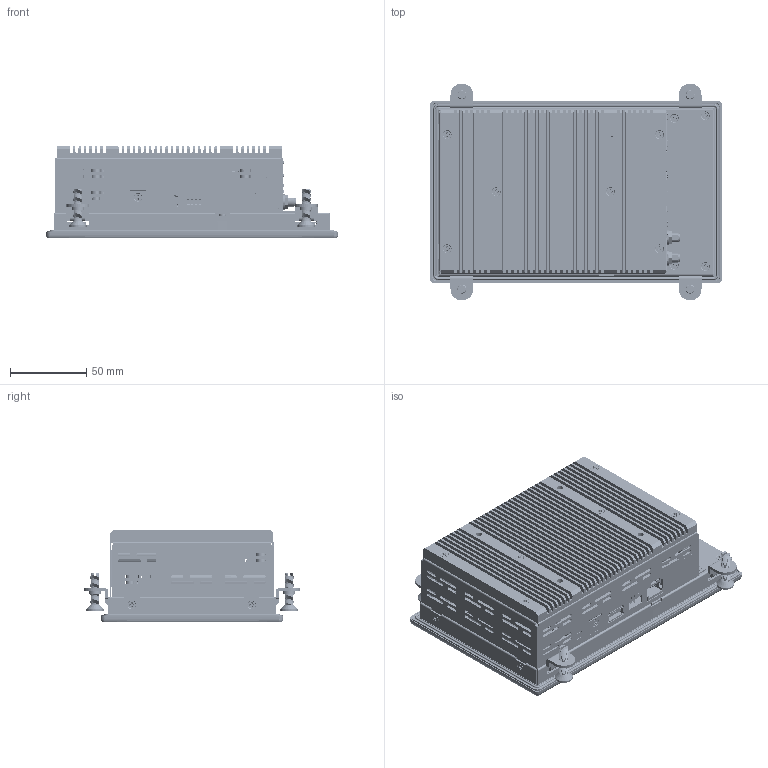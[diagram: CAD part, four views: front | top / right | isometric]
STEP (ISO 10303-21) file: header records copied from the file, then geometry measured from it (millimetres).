
FILE_DESCRIPTION((''),'2;1');
FILE_NAME('NPL4C-070','2026-06-02T11:03:21',('gijyu181'),(''),'CREO PARAMETRIC BY PTC INC, 2018050','CREO PARAMETRIC BY PTC INC, 2018050','');
FILE_SCHEMA(('CONFIG_CONTROL_DESIGN','SHAPE_APPEARANCE_LAYERS_GROUPS'));
Products named in the file (1): NPL4C-070
Bounding box: 192 x 142.6 x 61 mm (x, y, z)
Volume: 286627.7 mm3; surface area: 381079.6 mm2
Topology: 28 solids, 63 shells, 24988 faces, 72877 edges, 48108 vertices
Faces by surface type: plane 18476, cylinder 5009, extrusion 799, cone 437, bspline 167, torus 67, sphere 29, revolution 4
Entity records: 983537 total; most frequent: CARTESIAN_POINT 192895, ORIENTED_EDGE 145027, DIRECTION 128811, EDGE_CURVE 72855, VECTOR 60473, LINE 59674, VERTEX_POINT 48109, AXIS2_PLACEMENT_3D 34167
